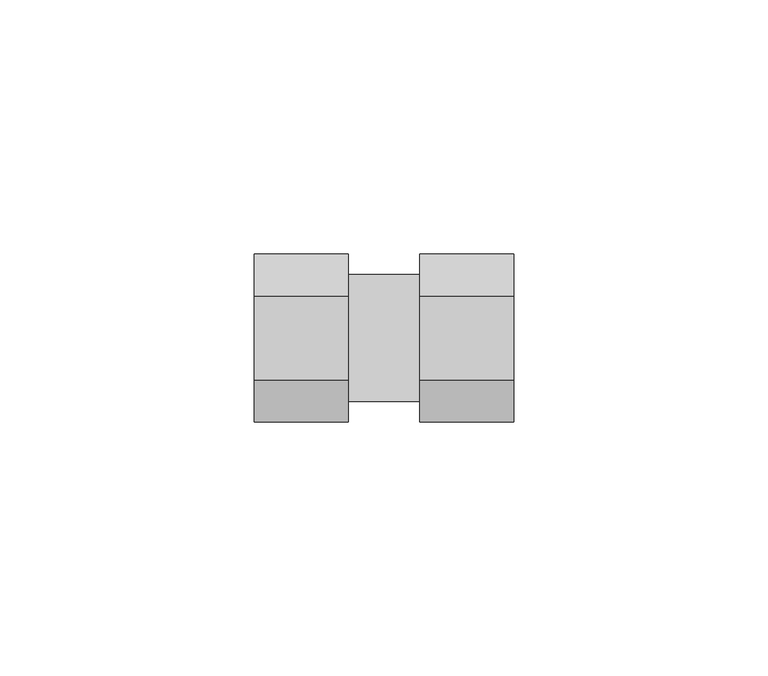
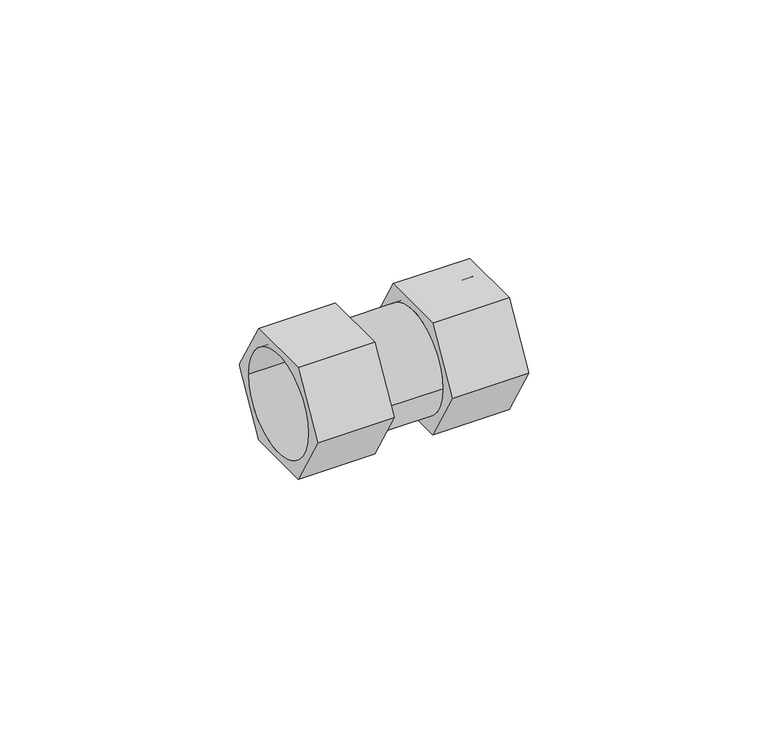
"""IFC4 building model written with IfcOpenShell, lengths in millimetres: pipe fitting geometry, БИР ПЕКС_КМП_Муфта прямая : Муфта ПЕКС Прямая."""

from ifc_helpers import new_model, si_unit, point, frame, origin, origin_2d, place, context, project, spatial, polyline, circle_curve, trimmed, segment, composite_curve, outline, extrude, source, transform, mapped, element, save


def pipe_fitting_9ff343b9(model_context):
    return source(origin(), model_context, "Body", "SweptSolid", [
        extrude(outline(polyline([(-8.25, -14.2894192), (-16.5, 0.0), (-8.25, 14.2894192), (8.25, 14.2894192), (16.5, 0.0), (8.25, -14.2894192), (-8.25, -14.2894192)]), holes=[composite_curve([segment(trimmed(circle_curve(origin_2d(), 12.5), [point((-12.5, 0.0))], [point((12.5, 0.0))], True, "CARTESIAN"), True, "CONTINUOUS"), segment(trimmed(circle_curve(origin_2d(), 12.5), [point((12.5, 0.0))], [point((-12.5, 0.0))], True, "CARTESIAN"), True, "CONTINUOUS")], self_intersect=False)]), frame((7.0, 0.0, 0.0), z_axis=(1.0, 0.0, 0.0), x_axis=(0.0, 1.0, 0.0)), (0.0, 0.0, 1.0), 18.5),
        extrude(outline(polyline([(-8.25, -14.2894192), (-16.5, 0.0), (-8.25, 14.2894192), (8.25, 14.2894192), (16.5, 0.0), (8.25, -14.2894192), (-8.25, -14.2894192)]), holes=[composite_curve([segment(trimmed(circle_curve(origin_2d(), 12.5), [point((-12.5, 0.0))], [point((12.5, 0.0))], True, "CARTESIAN"), True, "CONTINUOUS"), segment(trimmed(circle_curve(origin_2d(), 12.5), [point((12.5, 0.0))], [point((-12.5, 0.0))], True, "CARTESIAN"), True, "CONTINUOUS")], self_intersect=False)]), frame((-25.5, 0.0, 0.0), z_axis=(1.0, 0.0, 0.0), x_axis=(0.0, 1.0, 0.0)), (0.0, 0.0, 1.0), 18.5),
        extrude(outline(composite_curve([segment(trimmed(circle_curve(origin_2d(), 12.5), [point((-12.5, 0.0))], [point((12.5, 0.0))], False, "CARTESIAN"), True, "CONTINUOUS"), segment(trimmed(circle_curve(origin_2d(), 12.5), [point((12.5, 0.0))], [point((-12.5, 0.0))], False, "CARTESIAN"), True, "CONTINUOUS")], self_intersect=False)), frame((-7.0, 0.0, 0.0), z_axis=(1.0, 0.0, 0.0), x_axis=(0.0, 1.0, 0.0)), (0.0, 0.0, 1.0), 14.0),
    ])


if __name__ == "__main__":
    model = new_model("IFC4")
    model_context = context("Model", 3, world=origin())
    ifc_project = project(units=[si_unit("LENGTHUNIT", "METRE", prefix="MILLI")], contexts=[model_context])
    site = spatial("IfcSite", under=ifc_project)
    building = spatial("IfcBuilding", under=site)
    placement = place(None, origin())
    pipe_fitting_shape = pipe_fitting_9ff343b9(model_context)
    element("IfcPipeFitting", 1, ObjectType="БИР ПЕКС_КМП_Муфта прямая : Муфта ПЕКС Прямая", at=placement, inside=building, context=model_context, shape_type="MappedRepresentation", body=[
        mapped(pipe_fitting_shape, transform((0.0, 0.0, 0.0), x_axis=(1.0, 0.0, 0.0), y_axis=(0.0, 1.0, 0.0), z_axis=(0.0, 0.0, 1.0))),
    ])
    save(model, "model.ifc")
